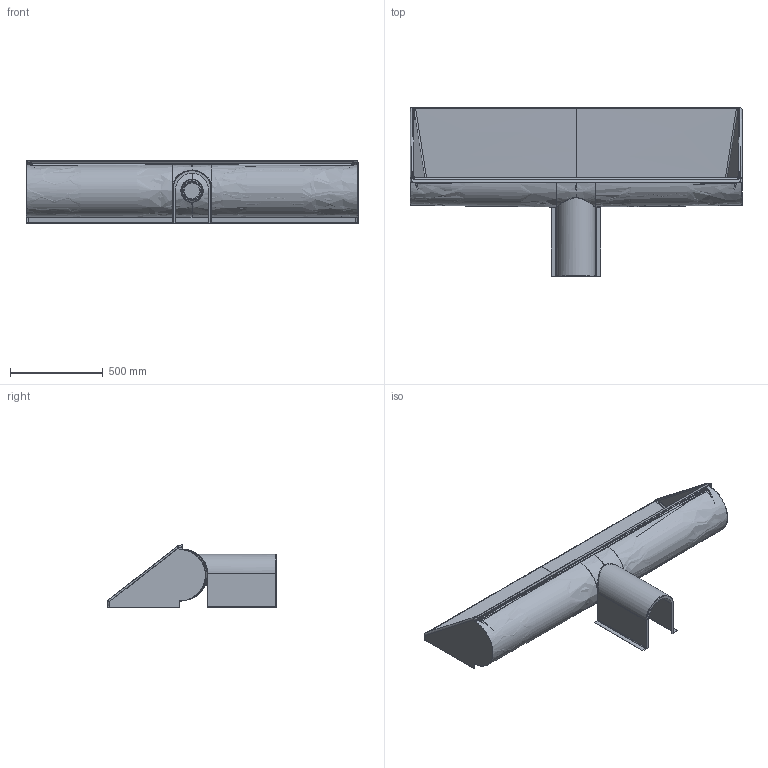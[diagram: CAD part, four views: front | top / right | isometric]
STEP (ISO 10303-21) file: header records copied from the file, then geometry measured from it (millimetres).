
FILE_DESCRIPTION((''),'2;1');
FILE_NAME('D:\ConTechCAD\Kunder\Uridan\Kummer\GR-1800\3D-Eksport\GR-1800.stp','2010-02-03T17:27:25',('Finn Lundsgaard'),(''),'Autodesk Inventor 2009','Autodesk Inventor 2009','');
FILE_SCHEMA(('AUTOMOTIVE_DESIGN { 1 0 10303 214 1 1 1 1 }'));
Length unit declared in the file: millimetre
Products named in the file (6): GR-1800_samlet_3D_eksport; GR-1800_Rende; Afdækning; dæksel_samlet_GR-3; Dæksel_GR-3; Rør_Dæksel_GR-3
Assembly tree (5 placements, depth 3):
  GR-1800_samlet_3D_eksport
    GR-1800_Rende
    Afdækning
    dæksel_samlet_GR-3
      Dæksel_GR-3
      Rør_Dæksel_GR-3
Bounding box: 1790 x 910 x 339.44 mm (x, y, z)
Volume: 3246218.8 mm3; surface area: 6230110.3 mm2
Topology: 4 solids, 4 shells, 352 faces, 908 edges, 550 vertices
Faces by surface type: bspline 228, plane 46, cylinder 39, torus 21, cone 18
Full cylindrical faces by diameter (mm): 85 x1, 90 x3, 90.2 x1, 90.3 x1
Entity records: 37090 total; most frequent: CARTESIAN_POINT 30233, ORIENTED_EDGE 1778, EDGE_CURVE 889, DIRECTION 718, VERTEX_POINT 549, B_SPLINE_CURVE_WITH_KNOTS 546, EDGE_LOOP 373, FACE_OUTER_BOUND 352
